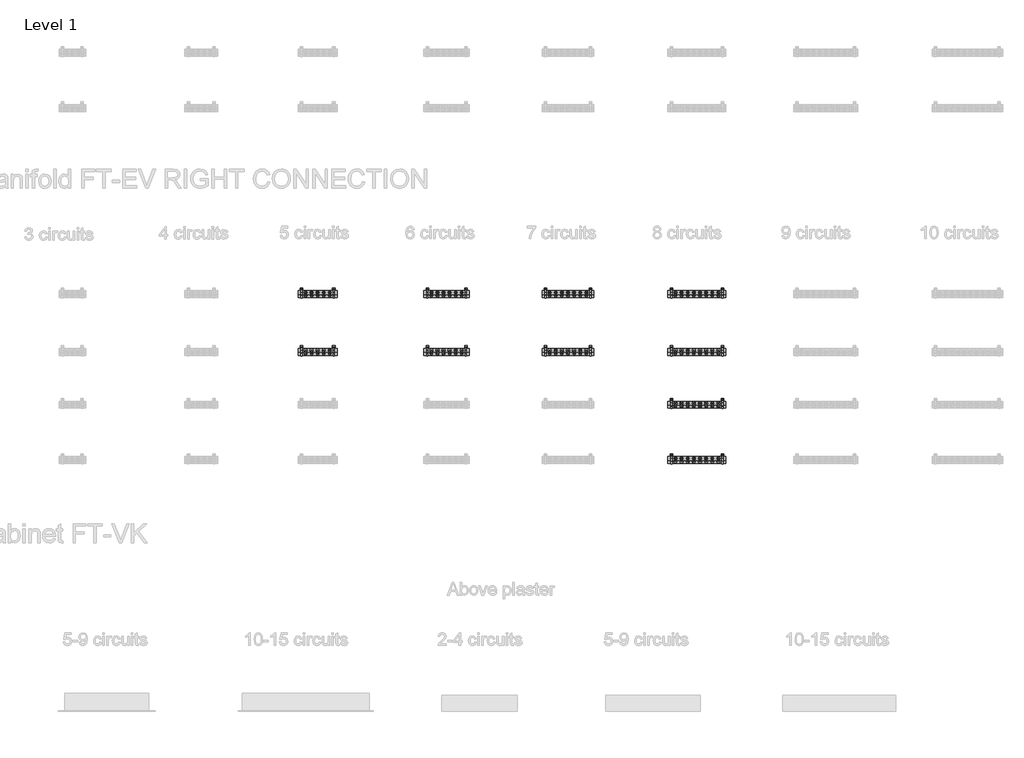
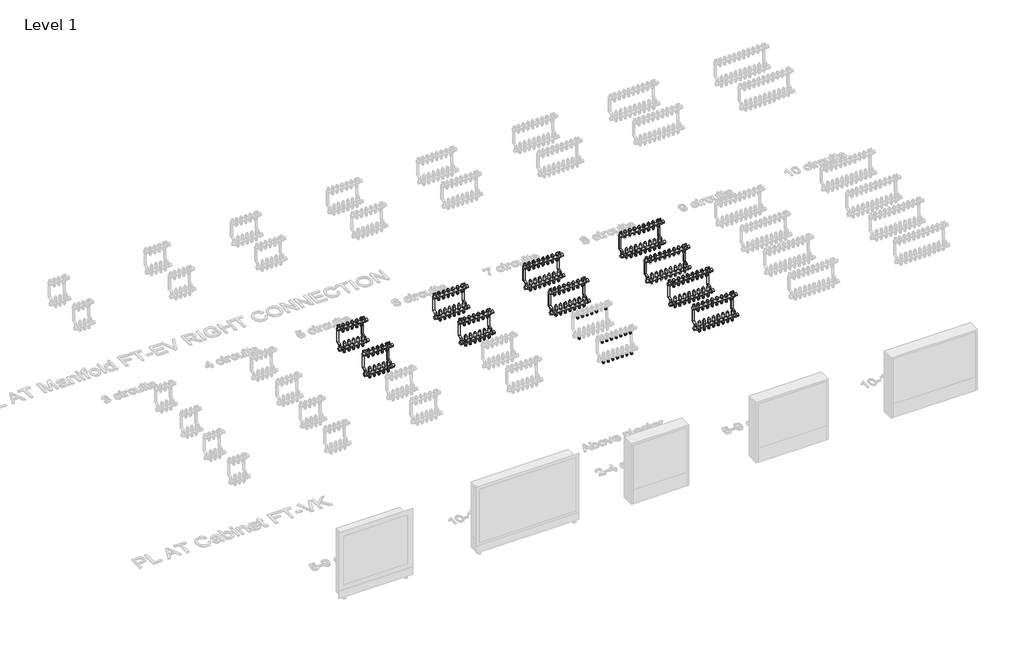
# One storey, part 2 of 23: 136 pipe fittings, 10 valves.
"""IFC4 building model written with IfcOpenShell, lengths in millimetres."""

from ifc_helpers import new_model, si_unit, origin, place, context, project, spatial, transform, mapped, element, save
from components import pipe_fitting_03c6499f, valve_0794a25a, valve_64aa8ca1, valve_0c7f9d95, valve_02e7046f, valve_ee085975, valve_4b47ae93, valve_fde5d0af, valve_4e4a3ad7, valve_daf88f27

model = new_model("IFC4")

# Units and contexts
model_context = context("Model", 3, world=origin())
ifc_project = project(units=[si_unit("LENGTHUNIT", "METRE", prefix="MILLI")], contexts=[model_context])

# Site, building, storey
site = spatial("IfcSite", under=ifc_project)
building = spatial("IfcBuilding", under=site)
storey = spatial("IfcBuildingStorey", under=building, Name="Level 1", Elevation=0.0)

# Pipe fittings
placement = place(None, origin())
pipe_fitting_shape = pipe_fitting_03c6499f(model_context)
element("IfcPipeFitting", 1, ObjectType="Euroconus screwing for multilayer pipes - Manifold FT : Euroconus screwing for multilayer pipes - Manifold FT", at=placement, inside=storey, context=model_context, shape_type="MappedRepresentation", body=[
    mapped(pipe_fitting_shape, transform((4436.9796862, -1164.6959314, 62.88733), x_axis=(0.0, 0.0, -1.0), y_axis=(0.0, 1.0000000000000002, 0.0), z_axis=(1.0000000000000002, 0.0, 0.0))),
])
element("IfcPipeFitting", 2, ObjectType="Euroconus screwing for multilayer pipes - Manifold FT : Euroconus screwing for multilayer pipes - Manifold FT", at=placement, inside=storey, context=model_context, shape_type="MappedRepresentation", body=[
    mapped(pipe_fitting_shape, transform((4388.9796862, -1164.6959314, 62.88733), x_axis=(0.0, 0.0, -1.0), y_axis=(0.0, 1.0000000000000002, 0.0), z_axis=(1.0000000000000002, 0.0, 0.0))),
])
element("IfcPipeFitting", 3, ObjectType="Euroconus screwing for multilayer pipes - Manifold FT : Euroconus screwing for multilayer pipes - Manifold FT", at=placement, inside=storey, context=model_context, shape_type="MappedRepresentation", body=[
    mapped(pipe_fitting_shape, transform((4340.9796862, -1164.6959314, 62.88733), x_axis=(0.0, 0.0, -1.0), y_axis=(0.0, 1.0000000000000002, 0.0), z_axis=(1.0000000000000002, 0.0, 0.0))),
])
element("IfcPipeFitting", 4, ObjectType="Euroconus screwing for multilayer pipes - Manifold FT : Euroconus screwing for multilayer pipes - Manifold FT", at=placement, inside=storey, context=model_context, shape_type="MappedRepresentation", body=[
    mapped(pipe_fitting_shape, transform((4484.9796862, -1164.6959314, 62.88733), x_axis=(0.0, 0.0, -1.0), y_axis=(0.0, 1.0000000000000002, 0.0), z_axis=(1.0000000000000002, 0.0, 0.0))),
])
element("IfcPipeFitting", 5, ObjectType="Euroconus screwing for multilayer pipes - Manifold FT : Euroconus screwing for multilayer pipes - Manifold FT", at=placement, inside=storey, context=model_context, shape_type="MappedRepresentation", body=[
    mapped(pipe_fitting_shape, transform((4436.9796862, -1139.6959314, 272.88733), x_axis=(0.0, 0.0, -1.0), y_axis=(0.0, 1.0000000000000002, 0.0), z_axis=(1.0000000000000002, 0.0, 0.0))),
])
element("IfcPipeFitting", 6, ObjectType="Euroconus screwing for multilayer pipes - Manifold FT : Euroconus screwing for multilayer pipes - Manifold FT", at=placement, inside=storey, context=model_context, shape_type="MappedRepresentation", body=[
    mapped(pipe_fitting_shape, transform((4388.9796862, -1139.6959314, 272.88733), x_axis=(0.0, 0.0, -1.0), y_axis=(0.0, 1.0000000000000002, 0.0), z_axis=(1.0000000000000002, 0.0, 0.0))),
])
element("IfcPipeFitting", 7, ObjectType="Euroconus screwing for multilayer pipes - Manifold FT : Euroconus screwing for multilayer pipes - Manifold FT", at=placement, inside=storey, context=model_context, shape_type="MappedRepresentation", body=[
    mapped(pipe_fitting_shape, transform((4340.9796862, -1139.6959314, 272.88733), x_axis=(0.0, 0.0, -1.0), y_axis=(0.0, 1.0000000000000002, 0.0), z_axis=(1.0000000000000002, 0.0, 0.0))),
])
element("IfcPipeFitting", 8, ObjectType="Euroconus screwing for multilayer pipes - Manifold FT : Euroconus screwing for multilayer pipes - Manifold FT", at=placement, inside=storey, context=model_context, shape_type="MappedRepresentation", body=[
    mapped(pipe_fitting_shape, transform((4484.9796862, -1139.6959314, 272.88733), x_axis=(0.0, 0.0, -1.0), y_axis=(0.0, 1.0000000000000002, 0.0), z_axis=(1.0000000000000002, 0.0, 0.0))),
])
element("IfcPipeFitting", 9, ObjectType="Euroconus screwing for multilayer pipes - Manifold FT : Euroconus screwing for multilayer pipes - Manifold FT", at=placement, inside=storey, context=model_context, shape_type="MappedRepresentation", body=[
    mapped(pipe_fitting_shape, transform((4292.9796862, -1164.6959314, 62.88733), x_axis=(0.0, 0.0, -1.0), y_axis=(0.0, 1.0000000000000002, 0.0), z_axis=(1.0000000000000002, 0.0, 0.0))),
])
element("IfcPipeFitting", 10, ObjectType="Euroconus screwing for multilayer pipes - Manifold FT : Euroconus screwing for multilayer pipes - Manifold FT", at=placement, inside=storey, context=model_context, shape_type="MappedRepresentation", body=[
    mapped(pipe_fitting_shape, transform((4292.9796862, -1139.6959314, 272.88733), x_axis=(0.0, 0.0, -1.0), y_axis=(0.0, 1.0000000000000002, 0.0), z_axis=(1.0000000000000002, 0.0, 0.0))),
])
element("IfcPipeFitting", 11, ObjectType="Euroconus screwing for multilayer pipes - Manifold FT : Euroconus screwing for multilayer pipes - Manifold FT", at=placement, inside=storey, context=model_context, shape_type="MappedRepresentation", body=[
    mapped(pipe_fitting_shape, transform((5486.5796862, -1164.6959314, 62.88733), x_axis=(0.0, 0.0, -1.0), y_axis=(0.0, 1.0000000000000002, 0.0), z_axis=(1.0000000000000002, 0.0, 0.0))),
])
element("IfcPipeFitting", 12, ObjectType="Euroconus screwing for multilayer pipes - Manifold FT : Euroconus screwing for multilayer pipes - Manifold FT", at=placement, inside=storey, context=model_context, shape_type="MappedRepresentation", body=[
    mapped(pipe_fitting_shape, transform((5438.1796862, -1164.6959314, 62.88733), x_axis=(0.0, 0.0, -1.0), y_axis=(0.0, 1.0000000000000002, 0.0), z_axis=(1.0000000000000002, 0.0, 0.0))),
])
element("IfcPipeFitting", 13, ObjectType="Euroconus screwing for multilayer pipes - Manifold FT : Euroconus screwing for multilayer pipes - Manifold FT", at=placement, inside=storey, context=model_context, shape_type="MappedRepresentation", body=[
    mapped(pipe_fitting_shape, transform((5389.7796862, -1164.6959314, 62.88733), x_axis=(0.0, 0.0, -1.0), y_axis=(0.0, 1.0000000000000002, 0.0), z_axis=(1.0000000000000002, 0.0, 0.0))),
])
element("IfcPipeFitting", 14, ObjectType="Euroconus screwing for multilayer pipes - Manifold FT : Euroconus screwing for multilayer pipes - Manifold FT", at=placement, inside=storey, context=model_context, shape_type="MappedRepresentation", body=[
    mapped(pipe_fitting_shape, transform((5341.3796862, -1164.6959314, 62.88733), x_axis=(0.0, 0.0, -1.0), y_axis=(0.0, 1.0000000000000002, 0.0), z_axis=(1.0000000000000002, 0.0, 0.0))),
])
element("IfcPipeFitting", 15, ObjectType="Euroconus screwing for multilayer pipes - Manifold FT : Euroconus screwing for multilayer pipes - Manifold FT", at=placement, inside=storey, context=model_context, shape_type="MappedRepresentation", body=[
    mapped(pipe_fitting_shape, transform((5534.9796862, -1164.6959314, 62.88733), x_axis=(0.0, 0.0, -1.0), y_axis=(0.0, 1.0000000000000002, 0.0), z_axis=(1.0000000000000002, 0.0, 0.0))),
])
element("IfcPipeFitting", 16, ObjectType="Euroconus screwing for multilayer pipes - Manifold FT : Euroconus screwing for multilayer pipes - Manifold FT", at=placement, inside=storey, context=model_context, shape_type="MappedRepresentation", body=[
    mapped(pipe_fitting_shape, transform((5486.5796862, -1139.6959314, 272.88733), x_axis=(0.0, 0.0, -1.0), y_axis=(0.0, 1.0000000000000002, 0.0), z_axis=(1.0000000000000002, 0.0, 0.0))),
])
element("IfcPipeFitting", 17, ObjectType="Euroconus screwing for multilayer pipes - Manifold FT : Euroconus screwing for multilayer pipes - Manifold FT", at=placement, inside=storey, context=model_context, shape_type="MappedRepresentation", body=[
    mapped(pipe_fitting_shape, transform((5438.1796862, -1139.6959314, 272.88733), x_axis=(0.0, 0.0, -1.0), y_axis=(0.0, 1.0000000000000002, 0.0), z_axis=(1.0000000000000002, 0.0, 0.0))),
])
element("IfcPipeFitting", 18, ObjectType="Euroconus screwing for multilayer pipes - Manifold FT : Euroconus screwing for multilayer pipes - Manifold FT", at=placement, inside=storey, context=model_context, shape_type="MappedRepresentation", body=[
    mapped(pipe_fitting_shape, transform((5389.7796862, -1139.6959314, 272.88733), x_axis=(0.0, 0.0, -1.0), y_axis=(0.0, 1.0000000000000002, 0.0), z_axis=(1.0000000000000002, 0.0, 0.0))),
])
element("IfcPipeFitting", 19, ObjectType="Euroconus screwing for multilayer pipes - Manifold FT : Euroconus screwing for multilayer pipes - Manifold FT", at=placement, inside=storey, context=model_context, shape_type="MappedRepresentation", body=[
    mapped(pipe_fitting_shape, transform((5341.3796862, -1139.6959314, 272.88733), x_axis=(0.0, 0.0, -1.0), y_axis=(0.0, 1.0000000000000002, 0.0), z_axis=(1.0000000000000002, 0.0, 0.0))),
])
element("IfcPipeFitting", 20, ObjectType="Euroconus screwing for multilayer pipes - Manifold FT : Euroconus screwing for multilayer pipes - Manifold FT", at=placement, inside=storey, context=model_context, shape_type="MappedRepresentation", body=[
    mapped(pipe_fitting_shape, transform((5534.9796862, -1139.6959314, 272.88733), x_axis=(0.0, 0.0, -1.0), y_axis=(0.0, 1.0000000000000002, 0.0), z_axis=(1.0000000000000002, 0.0, 0.0))),
])
element("IfcPipeFitting", 21, ObjectType="Euroconus screwing for multilayer pipes - Manifold FT : Euroconus screwing for multilayer pipes - Manifold FT", at=placement, inside=storey, context=model_context, shape_type="MappedRepresentation", body=[
    mapped(pipe_fitting_shape, transform((5292.9796862, -1164.6959314, 62.88733), x_axis=(0.0, 0.0, -1.0), y_axis=(0.0, 1.0000000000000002, 0.0), z_axis=(1.0000000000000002, 0.0, 0.0))),
])
element("IfcPipeFitting", 22, ObjectType="Euroconus screwing for multilayer pipes - Manifold FT : Euroconus screwing for multilayer pipes - Manifold FT", at=placement, inside=storey, context=model_context, shape_type="MappedRepresentation", body=[
    mapped(pipe_fitting_shape, transform((5292.9796862, -1139.6959314, 272.88733), x_axis=(0.0, 0.0, -1.0), y_axis=(0.0, 1.0000000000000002, 0.0), z_axis=(1.0000000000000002, 0.0, 0.0))),
])
element("IfcPipeFitting", 23, ObjectType="Euroconus screwing for multilayer pipes - Manifold FT : Euroconus screwing for multilayer pipes - Manifold FT", at=placement, inside=storey, context=model_context, shape_type="MappedRepresentation", body=[
    mapped(pipe_fitting_shape, transform((6476.3130195, -1164.6959314, 62.88733), x_axis=(0.0, 0.0, -1.0), y_axis=(0.0, 1.0000000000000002, 0.0), z_axis=(1.0000000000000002, 0.0, 0.0))),
])
element("IfcPipeFitting", 24, ObjectType="Euroconus screwing for multilayer pipes - Manifold FT : Euroconus screwing for multilayer pipes - Manifold FT", at=placement, inside=storey, context=model_context, shape_type="MappedRepresentation", body=[
    mapped(pipe_fitting_shape, transform((6427.6463528, -1164.6959314, 62.88733), x_axis=(0.0, 0.0, -1.0), y_axis=(0.0, 1.0000000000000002, 0.0), z_axis=(1.0000000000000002, 0.0, 0.0))),
])
element("IfcPipeFitting", 25, ObjectType="Euroconus screwing for multilayer pipes - Manifold FT : Euroconus screwing for multilayer pipes - Manifold FT", at=placement, inside=storey, context=model_context, shape_type="MappedRepresentation", body=[
    mapped(pipe_fitting_shape, transform((6378.9796862, -1164.6959314, 62.88733), x_axis=(0.0, 0.0, -1.0), y_axis=(0.0, 1.0000000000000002, 0.0), z_axis=(1.0000000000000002, 0.0, 0.0))),
])
element("IfcPipeFitting", 26, ObjectType="Euroconus screwing for multilayer pipes - Manifold FT : Euroconus screwing for multilayer pipes - Manifold FT", at=placement, inside=storey, context=model_context, shape_type="MappedRepresentation", body=[
    mapped(pipe_fitting_shape, transform((6330.3130195, -1164.6959314, 62.88733), x_axis=(0.0, 0.0, -1.0), y_axis=(0.0, 1.0000000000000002, 0.0), z_axis=(1.0000000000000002, 0.0, 0.0))),
])
element("IfcPipeFitting", 27, ObjectType="Euroconus screwing for multilayer pipes - Manifold FT : Euroconus screwing for multilayer pipes - Manifold FT", at=placement, inside=storey, context=model_context, shape_type="MappedRepresentation", body=[
    mapped(pipe_fitting_shape, transform((6281.6463528, -1164.6959314, 62.88733), x_axis=(0.0, 0.0, -1.0), y_axis=(0.0, 1.0000000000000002, 0.0), z_axis=(1.0000000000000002, 0.0, 0.0))),
])
element("IfcPipeFitting", 28, ObjectType="Euroconus screwing for multilayer pipes - Manifold FT : Euroconus screwing for multilayer pipes - Manifold FT", at=placement, inside=storey, context=model_context, shape_type="MappedRepresentation", body=[
    mapped(pipe_fitting_shape, transform((6524.9796862, -1164.6959314, 62.88733), x_axis=(0.0, 0.0, -1.0), y_axis=(0.0, 1.0000000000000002, 0.0), z_axis=(1.0000000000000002, 0.0, 0.0))),
])
element("IfcPipeFitting", 29, ObjectType="Euroconus screwing for multilayer pipes - Manifold FT : Euroconus screwing for multilayer pipes - Manifold FT", at=placement, inside=storey, context=model_context, shape_type="MappedRepresentation", body=[
    mapped(pipe_fitting_shape, transform((6476.3130195, -1139.6959314, 272.88733), x_axis=(0.0, 0.0, -1.0), y_axis=(0.0, 1.0000000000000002, 0.0), z_axis=(1.0000000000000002, 0.0, 0.0))),
])
element("IfcPipeFitting", 30, ObjectType="Euroconus screwing for multilayer pipes - Manifold FT : Euroconus screwing for multilayer pipes - Manifold FT", at=placement, inside=storey, context=model_context, shape_type="MappedRepresentation", body=[
    mapped(pipe_fitting_shape, transform((6427.6463528, -1139.6959314, 272.88733), x_axis=(0.0, 0.0, -1.0), y_axis=(0.0, 1.0000000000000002, 0.0), z_axis=(1.0000000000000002, 0.0, 0.0))),
])
element("IfcPipeFitting", 31, ObjectType="Euroconus screwing for multilayer pipes - Manifold FT : Euroconus screwing for multilayer pipes - Manifold FT", at=placement, inside=storey, context=model_context, shape_type="MappedRepresentation", body=[
    mapped(pipe_fitting_shape, transform((6378.9796862, -1139.6959314, 272.88733), x_axis=(0.0, 0.0, -1.0), y_axis=(0.0, 1.0000000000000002, 0.0), z_axis=(1.0000000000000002, 0.0, 0.0))),
])
element("IfcPipeFitting", 32, ObjectType="Euroconus screwing for multilayer pipes - Manifold FT : Euroconus screwing for multilayer pipes - Manifold FT", at=placement, inside=storey, context=model_context, shape_type="MappedRepresentation", body=[
    mapped(pipe_fitting_shape, transform((6330.3130195, -1139.6959314, 272.88733), x_axis=(0.0, 0.0, -1.0), y_axis=(0.0, 1.0000000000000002, 0.0), z_axis=(1.0000000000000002, 0.0, 0.0))),
])
element("IfcPipeFitting", 33, ObjectType="Euroconus screwing for multilayer pipes - Manifold FT : Euroconus screwing for multilayer pipes - Manifold FT", at=placement, inside=storey, context=model_context, shape_type="MappedRepresentation", body=[
    mapped(pipe_fitting_shape, transform((6281.6463528, -1139.6959314, 272.88733), x_axis=(0.0, 0.0, -1.0), y_axis=(0.0, 1.0000000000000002, 0.0), z_axis=(1.0000000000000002, 0.0, 0.0))),
])
element("IfcPipeFitting", 34, ObjectType="Euroconus screwing for multilayer pipes - Manifold FT : Euroconus screwing for multilayer pipes - Manifold FT", at=placement, inside=storey, context=model_context, shape_type="MappedRepresentation", body=[
    mapped(pipe_fitting_shape, transform((6524.9796862, -1139.6959314, 272.88733), x_axis=(0.0, 0.0, -1.0), y_axis=(0.0, 1.0000000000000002, 0.0), z_axis=(1.0000000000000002, 0.0, 0.0))),
])
element("IfcPipeFitting", 35, ObjectType="Euroconus screwing for multilayer pipes - Manifold FT : Euroconus screwing for multilayer pipes - Manifold FT", at=placement, inside=storey, context=model_context, shape_type="MappedRepresentation", body=[
    mapped(pipe_fitting_shape, transform((6232.9796862, -1164.6959314, 62.88733), x_axis=(0.0, 0.0, -1.0), y_axis=(0.0, 1.0000000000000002, 0.0), z_axis=(1.0000000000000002, 0.0, 0.0))),
])
element("IfcPipeFitting", 36, ObjectType="Euroconus screwing for multilayer pipes - Manifold FT : Euroconus screwing for multilayer pipes - Manifold FT", at=placement, inside=storey, context=model_context, shape_type="MappedRepresentation", body=[
    mapped(pipe_fitting_shape, transform((6232.9796862, -1139.6959314, 272.88733), x_axis=(0.0, 0.0, -1.0), y_axis=(0.0, 1.0000000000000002, 0.0), z_axis=(1.0000000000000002, 0.0, 0.0))),
])
element("IfcPipeFitting", 37, ObjectType="Euroconus screwing for multilayer pipes - Manifold FT : Euroconus screwing for multilayer pipes - Manifold FT", at=placement, inside=storey, context=model_context, shape_type="MappedRepresentation", body=[
    mapped(pipe_fitting_shape, transform((7526.1225433, -1164.6959314, 62.88733), x_axis=(0.0, 0.0, -1.0), y_axis=(0.0, 1.0000000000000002, 0.0), z_axis=(1.0000000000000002, 0.0, 0.0))),
])
element("IfcPipeFitting", 38, ObjectType="Euroconus screwing for multilayer pipes - Manifold FT : Euroconus screwing for multilayer pipes - Manifold FT", at=placement, inside=storey, context=model_context, shape_type="MappedRepresentation", body=[
    mapped(pipe_fitting_shape, transform((7477.2654004, -1164.6959314, 62.88733), x_axis=(0.0, 0.0, -1.0), y_axis=(0.0, 1.0000000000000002, 0.0), z_axis=(1.0000000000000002, 0.0, 0.0))),
])
element("IfcPipeFitting", 39, ObjectType="Euroconus screwing for multilayer pipes - Manifold FT : Euroconus screwing for multilayer pipes - Manifold FT", at=placement, inside=storey, context=model_context, shape_type="MappedRepresentation", body=[
    mapped(pipe_fitting_shape, transform((7428.4082576, -1164.6959314, 62.88733), x_axis=(0.0, 0.0, -1.0), y_axis=(0.0, 1.0000000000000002, 0.0), z_axis=(1.0000000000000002, 0.0, 0.0))),
])
element("IfcPipeFitting", 40, ObjectType="Euroconus screwing for multilayer pipes - Manifold FT : Euroconus screwing for multilayer pipes - Manifold FT", at=placement, inside=storey, context=model_context, shape_type="MappedRepresentation", body=[
    mapped(pipe_fitting_shape, transform((7379.5511147, -1164.6959314, 62.88733), x_axis=(0.0, 0.0, -1.0), y_axis=(0.0, 1.0000000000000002, 0.0), z_axis=(1.0000000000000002, 0.0, 0.0))),
])
element("IfcPipeFitting", 41, ObjectType="Euroconus screwing for multilayer pipes - Manifold FT : Euroconus screwing for multilayer pipes - Manifold FT", at=placement, inside=storey, context=model_context, shape_type="MappedRepresentation", body=[
    mapped(pipe_fitting_shape, transform((7330.6939719, -1164.6959314, 62.88733), x_axis=(0.0, 0.0, -1.0), y_axis=(0.0, 1.0000000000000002, 0.0), z_axis=(1.0000000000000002, 0.0, 0.0))),
])
element("IfcPipeFitting", 42, ObjectType="Euroconus screwing for multilayer pipes - Manifold FT : Euroconus screwing for multilayer pipes - Manifold FT", at=placement, inside=storey, context=model_context, shape_type="MappedRepresentation", body=[
    mapped(pipe_fitting_shape, transform((7281.836829, -1164.6959314, 62.88733), x_axis=(0.0, 0.0, -1.0), y_axis=(0.0, 1.0000000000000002, 0.0), z_axis=(1.0000000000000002, 0.0, 0.0))),
])
element("IfcPipeFitting", 43, ObjectType="Euroconus screwing for multilayer pipes - Manifold FT : Euroconus screwing for multilayer pipes - Manifold FT", at=placement, inside=storey, context=model_context, shape_type="MappedRepresentation", body=[
    mapped(pipe_fitting_shape, transform((7574.9796862, -1164.6959314, 62.88733), x_axis=(0.0, 0.0, -1.0), y_axis=(0.0, 1.0000000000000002, 0.0), z_axis=(1.0000000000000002, 0.0, 0.0))),
])
element("IfcPipeFitting", 44, ObjectType="Euroconus screwing for multilayer pipes - Manifold FT : Euroconus screwing for multilayer pipes - Manifold FT", at=placement, inside=storey, context=model_context, shape_type="MappedRepresentation", body=[
    mapped(pipe_fitting_shape, transform((7526.1225433, -1139.6959314, 272.88733), x_axis=(0.0, 0.0, -1.0), y_axis=(0.0, 1.0000000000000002, 0.0), z_axis=(1.0000000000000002, 0.0, 0.0))),
])
element("IfcPipeFitting", 45, ObjectType="Euroconus screwing for multilayer pipes - Manifold FT : Euroconus screwing for multilayer pipes - Manifold FT", at=placement, inside=storey, context=model_context, shape_type="MappedRepresentation", body=[
    mapped(pipe_fitting_shape, transform((7477.2654004, -1139.6959314, 272.88733), x_axis=(0.0, 0.0, -1.0), y_axis=(0.0, 1.0000000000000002, 0.0), z_axis=(1.0000000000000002, 0.0, 0.0))),
])
element("IfcPipeFitting", 46, ObjectType="Euroconus screwing for multilayer pipes - Manifold FT : Euroconus screwing for multilayer pipes - Manifold FT", at=placement, inside=storey, context=model_context, shape_type="MappedRepresentation", body=[
    mapped(pipe_fitting_shape, transform((7428.4082576, -1139.6959314, 272.88733), x_axis=(0.0, 0.0, -1.0), y_axis=(0.0, 1.0000000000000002, 0.0), z_axis=(1.0000000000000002, 0.0, 0.0))),
])
element("IfcPipeFitting", 47, ObjectType="Euroconus screwing for multilayer pipes - Manifold FT : Euroconus screwing for multilayer pipes - Manifold FT", at=placement, inside=storey, context=model_context, shape_type="MappedRepresentation", body=[
    mapped(pipe_fitting_shape, transform((7379.5511147, -1139.6959314, 272.88733), x_axis=(0.0, 0.0, -1.0), y_axis=(0.0, 1.0000000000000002, 0.0), z_axis=(1.0000000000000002, 0.0, 0.0))),
])
element("IfcPipeFitting", 48, ObjectType="Euroconus screwing for multilayer pipes - Manifold FT : Euroconus screwing for multilayer pipes - Manifold FT", at=placement, inside=storey, context=model_context, shape_type="MappedRepresentation", body=[
    mapped(pipe_fitting_shape, transform((4436.9796862, -1624.6959314, 62.88733), x_axis=(0.0, 0.0, -1.0), y_axis=(0.0, 1.0000000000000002, 0.0), z_axis=(1.0000000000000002, 0.0, 0.0))),
])
element("IfcPipeFitting", 49, ObjectType="Euroconus screwing for multilayer pipes - Manifold FT : Euroconus screwing for multilayer pipes - Manifold FT", at=placement, inside=storey, context=model_context, shape_type="MappedRepresentation", body=[
    mapped(pipe_fitting_shape, transform((4388.9796862, -1624.6959314, 62.88733), x_axis=(0.0, 0.0, -1.0), y_axis=(0.0, 1.0000000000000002, 0.0), z_axis=(1.0000000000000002, 0.0, 0.0))),
])
element("IfcPipeFitting", 50, ObjectType="Euroconus screwing for multilayer pipes - Manifold FT : Euroconus screwing for multilayer pipes - Manifold FT", at=placement, inside=storey, context=model_context, shape_type="MappedRepresentation", body=[
    mapped(pipe_fitting_shape, transform((4340.9796862, -1624.6959314, 62.88733), x_axis=(0.0, 0.0, -1.0), y_axis=(0.0, 1.0000000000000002, 0.0), z_axis=(1.0000000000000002, 0.0, 0.0))),
])
element("IfcPipeFitting", 51, ObjectType="Euroconus screwing for multilayer pipes - Manifold FT : Euroconus screwing for multilayer pipes - Manifold FT", at=placement, inside=storey, context=model_context, shape_type="MappedRepresentation", body=[
    mapped(pipe_fitting_shape, transform((4484.9796862, -1624.6959314, 62.88733), x_axis=(0.0, 0.0, -1.0), y_axis=(0.0, 1.0000000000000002, 0.0), z_axis=(1.0000000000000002, 0.0, 0.0))),
])
element("IfcPipeFitting", 52, ObjectType="Euroconus screwing for multilayer pipes - Manifold FT : Euroconus screwing for multilayer pipes - Manifold FT", at=placement, inside=storey, context=model_context, shape_type="MappedRepresentation", body=[
    mapped(pipe_fitting_shape, transform((4436.9796862, -1599.6959314, 272.88733), x_axis=(0.0, 0.0, -1.0), y_axis=(0.0, 1.0000000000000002, 0.0), z_axis=(1.0000000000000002, 0.0, 0.0))),
])
element("IfcPipeFitting", 53, ObjectType="Euroconus screwing for multilayer pipes - Manifold FT : Euroconus screwing for multilayer pipes - Manifold FT", at=placement, inside=storey, context=model_context, shape_type="MappedRepresentation", body=[
    mapped(pipe_fitting_shape, transform((4388.9796862, -1599.6959314, 272.88733), x_axis=(0.0, 0.0, -1.0), y_axis=(0.0, 1.0000000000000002, 0.0), z_axis=(1.0000000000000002, 0.0, 0.0))),
])
element("IfcPipeFitting", 54, ObjectType="Euroconus screwing for multilayer pipes - Manifold FT : Euroconus screwing for multilayer pipes - Manifold FT", at=placement, inside=storey, context=model_context, shape_type="MappedRepresentation", body=[
    mapped(pipe_fitting_shape, transform((4340.9796862, -1599.6959314, 272.88733), x_axis=(0.0, 0.0, -1.0), y_axis=(0.0, 1.0000000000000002, 0.0), z_axis=(1.0000000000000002, 0.0, 0.0))),
])
element("IfcPipeFitting", 55, ObjectType="Euroconus screwing for multilayer pipes - Manifold FT : Euroconus screwing for multilayer pipes - Manifold FT", at=placement, inside=storey, context=model_context, shape_type="MappedRepresentation", body=[
    mapped(pipe_fitting_shape, transform((4484.9796862, -1599.6959314, 272.88733), x_axis=(0.0, 0.0, -1.0), y_axis=(0.0, 1.0000000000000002, 0.0), z_axis=(1.0000000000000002, 0.0, 0.0))),
])
element("IfcPipeFitting", 56, ObjectType="Euroconus screwing for multilayer pipes - Manifold FT : Euroconus screwing for multilayer pipes - Manifold FT", at=placement, inside=storey, context=model_context, shape_type="MappedRepresentation", body=[
    mapped(pipe_fitting_shape, transform((4292.9796862, -1624.6959314, 62.88733), x_axis=(0.0, 0.0, -1.0), y_axis=(0.0, 1.0000000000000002, 0.0), z_axis=(1.0000000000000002, 0.0, 0.0))),
])
element("IfcPipeFitting", 57, ObjectType="Euroconus screwing for multilayer pipes - Manifold FT : Euroconus screwing for multilayer pipes - Manifold FT", at=placement, inside=storey, context=model_context, shape_type="MappedRepresentation", body=[
    mapped(pipe_fitting_shape, transform((4292.9796862, -1599.6959314, 272.88733), x_axis=(0.0, 0.0, -1.0), y_axis=(0.0, 1.0000000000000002, 0.0), z_axis=(1.0000000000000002, 0.0, 0.0))),
])
element("IfcPipeFitting", 58, ObjectType="Euroconus screwing for multilayer pipes - Manifold FT : Euroconus screwing for multilayer pipes - Manifold FT", at=placement, inside=storey, context=model_context, shape_type="MappedRepresentation", body=[
    mapped(pipe_fitting_shape, transform((5486.5796862, -1624.6959314, 62.88733), x_axis=(0.0, 0.0, -1.0), y_axis=(0.0, 1.0000000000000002, 0.0), z_axis=(1.0000000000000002, 0.0, 0.0))),
])
element("IfcPipeFitting", 59, ObjectType="Euroconus screwing for multilayer pipes - Manifold FT : Euroconus screwing for multilayer pipes - Manifold FT", at=placement, inside=storey, context=model_context, shape_type="MappedRepresentation", body=[
    mapped(pipe_fitting_shape, transform((5438.1796862, -1624.6959314, 62.88733), x_axis=(0.0, 0.0, -1.0), y_axis=(0.0, 1.0000000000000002, 0.0), z_axis=(1.0000000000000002, 0.0, 0.0))),
])
element("IfcPipeFitting", 60, ObjectType="Euroconus screwing for multilayer pipes - Manifold FT : Euroconus screwing for multilayer pipes - Manifold FT", at=placement, inside=storey, context=model_context, shape_type="MappedRepresentation", body=[
    mapped(pipe_fitting_shape, transform((5389.7796862, -1624.6959314, 62.88733), x_axis=(0.0, 0.0, -1.0), y_axis=(0.0, 1.0000000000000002, 0.0), z_axis=(1.0000000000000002, 0.0, 0.0))),
])
element("IfcPipeFitting", 61, ObjectType="Euroconus screwing for multilayer pipes - Manifold FT : Euroconus screwing for multilayer pipes - Manifold FT", at=placement, inside=storey, context=model_context, shape_type="MappedRepresentation", body=[
    mapped(pipe_fitting_shape, transform((5341.3796862, -1624.6959314, 62.88733), x_axis=(0.0, 0.0, -1.0), y_axis=(0.0, 1.0000000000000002, 0.0), z_axis=(1.0000000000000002, 0.0, 0.0))),
])
element("IfcPipeFitting", 62, ObjectType="Euroconus screwing for multilayer pipes - Manifold FT : Euroconus screwing for multilayer pipes - Manifold FT", at=placement, inside=storey, context=model_context, shape_type="MappedRepresentation", body=[
    mapped(pipe_fitting_shape, transform((5534.9796862, -1624.6959314, 62.88733), x_axis=(0.0, 0.0, -1.0), y_axis=(0.0, 1.0000000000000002, 0.0), z_axis=(1.0000000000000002, 0.0, 0.0))),
])
element("IfcPipeFitting", 63, ObjectType="Euroconus screwing for multilayer pipes - Manifold FT : Euroconus screwing for multilayer pipes - Manifold FT", at=placement, inside=storey, context=model_context, shape_type="MappedRepresentation", body=[
    mapped(pipe_fitting_shape, transform((5486.5796862, -1599.6959314, 272.88733), x_axis=(0.0, 0.0, -1.0), y_axis=(0.0, 1.0000000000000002, 0.0), z_axis=(1.0000000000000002, 0.0, 0.0))),
])
element("IfcPipeFitting", 64, ObjectType="Euroconus screwing for multilayer pipes - Manifold FT : Euroconus screwing for multilayer pipes - Manifold FT", at=placement, inside=storey, context=model_context, shape_type="MappedRepresentation", body=[
    mapped(pipe_fitting_shape, transform((5438.1796862, -1599.6959314, 272.88733), x_axis=(0.0, 0.0, -1.0), y_axis=(0.0, 1.0000000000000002, 0.0), z_axis=(1.0000000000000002, 0.0, 0.0))),
])
element("IfcPipeFitting", 65, ObjectType="Euroconus screwing for multilayer pipes - Manifold FT : Euroconus screwing for multilayer pipes - Manifold FT", at=placement, inside=storey, context=model_context, shape_type="MappedRepresentation", body=[
    mapped(pipe_fitting_shape, transform((5389.7796862, -1599.6959314, 272.88733), x_axis=(0.0, 0.0, -1.0), y_axis=(0.0, 1.0000000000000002, 0.0), z_axis=(1.0000000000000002, 0.0, 0.0))),
])
element("IfcPipeFitting", 66, ObjectType="Euroconus screwing for multilayer pipes - Manifold FT : Euroconus screwing for multilayer pipes - Manifold FT", at=placement, inside=storey, context=model_context, shape_type="MappedRepresentation", body=[
    mapped(pipe_fitting_shape, transform((5341.3796862, -1599.6959314, 272.88733), x_axis=(0.0, 0.0, -1.0), y_axis=(0.0, 1.0000000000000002, 0.0), z_axis=(1.0000000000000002, 0.0, 0.0))),
])
element("IfcPipeFitting", 67, ObjectType="Euroconus screwing for multilayer pipes - Manifold FT : Euroconus screwing for multilayer pipes - Manifold FT", at=placement, inside=storey, context=model_context, shape_type="MappedRepresentation", body=[
    mapped(pipe_fitting_shape, transform((5534.9796862, -1599.6959314, 272.88733), x_axis=(0.0, 0.0, -1.0), y_axis=(0.0, 1.0000000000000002, 0.0), z_axis=(1.0000000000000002, 0.0, 0.0))),
])
element("IfcPipeFitting", 68, ObjectType="Euroconus screwing for multilayer pipes - Manifold FT : Euroconus screwing for multilayer pipes - Manifold FT", at=placement, inside=storey, context=model_context, shape_type="MappedRepresentation", body=[
    mapped(pipe_fitting_shape, transform((5292.9796862, -1624.6959314, 62.88733), x_axis=(0.0, 0.0, -1.0), y_axis=(0.0, 1.0000000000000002, 0.0), z_axis=(1.0000000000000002, 0.0, 0.0))),
])
element("IfcPipeFitting", 69, ObjectType="Euroconus screwing for multilayer pipes - Manifold FT : Euroconus screwing for multilayer pipes - Manifold FT", at=placement, inside=storey, context=model_context, shape_type="MappedRepresentation", body=[
    mapped(pipe_fitting_shape, transform((5292.9796862, -1599.6959314, 272.88733), x_axis=(0.0, 0.0, -1.0), y_axis=(0.0, 1.0000000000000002, 0.0), z_axis=(1.0000000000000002, 0.0, 0.0))),
])
element("IfcPipeFitting", 70, ObjectType="Euroconus screwing for multilayer pipes - Manifold FT : Euroconus screwing for multilayer pipes - Manifold FT", at=placement, inside=storey, context=model_context, shape_type="MappedRepresentation", body=[
    mapped(pipe_fitting_shape, transform((6476.3130195, -1624.6959314, 62.88733), x_axis=(0.0, 0.0, -1.0), y_axis=(0.0, 1.0000000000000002, 0.0), z_axis=(1.0000000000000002, 0.0, 0.0))),
])
element("IfcPipeFitting", 71, ObjectType="Euroconus screwing for multilayer pipes - Manifold FT : Euroconus screwing for multilayer pipes - Manifold FT", at=placement, inside=storey, context=model_context, shape_type="MappedRepresentation", body=[
    mapped(pipe_fitting_shape, transform((6427.6463528, -1624.6959314, 62.88733), x_axis=(0.0, 0.0, -1.0), y_axis=(0.0, 1.0000000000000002, 0.0), z_axis=(1.0000000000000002, 0.0, 0.0))),
])
element("IfcPipeFitting", 72, ObjectType="Euroconus screwing for multilayer pipes - Manifold FT : Euroconus screwing for multilayer pipes - Manifold FT", at=placement, inside=storey, context=model_context, shape_type="MappedRepresentation", body=[
    mapped(pipe_fitting_shape, transform((6378.9796862, -1624.6959314, 62.88733), x_axis=(0.0, 0.0, -1.0), y_axis=(0.0, 1.0000000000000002, 0.0), z_axis=(1.0000000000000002, 0.0, 0.0))),
])
element("IfcPipeFitting", 73, ObjectType="Euroconus screwing for multilayer pipes - Manifold FT : Euroconus screwing for multilayer pipes - Manifold FT", at=placement, inside=storey, context=model_context, shape_type="MappedRepresentation", body=[
    mapped(pipe_fitting_shape, transform((6330.3130195, -1624.6959314, 62.88733), x_axis=(0.0, 0.0, -1.0), y_axis=(0.0, 1.0000000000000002, 0.0), z_axis=(1.0000000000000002, 0.0, 0.0))),
])
element("IfcPipeFitting", 74, ObjectType="Euroconus screwing for multilayer pipes - Manifold FT : Euroconus screwing for multilayer pipes - Manifold FT", at=placement, inside=storey, context=model_context, shape_type="MappedRepresentation", body=[
    mapped(pipe_fitting_shape, transform((6281.6463528, -1624.6959314, 62.88733), x_axis=(0.0, 0.0, -1.0), y_axis=(0.0, 1.0000000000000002, 0.0), z_axis=(1.0000000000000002, 0.0, 0.0))),
])
element("IfcPipeFitting", 75, ObjectType="Euroconus screwing for multilayer pipes - Manifold FT : Euroconus screwing for multilayer pipes - Manifold FT", at=placement, inside=storey, context=model_context, shape_type="MappedRepresentation", body=[
    mapped(pipe_fitting_shape, transform((6524.9796862, -1624.6959314, 62.88733), x_axis=(0.0, 0.0, -1.0), y_axis=(0.0, 1.0000000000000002, 0.0), z_axis=(1.0000000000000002, 0.0, 0.0))),
])
element("IfcPipeFitting", 76, ObjectType="Euroconus screwing for multilayer pipes - Manifold FT : Euroconus screwing for multilayer pipes - Manifold FT", at=placement, inside=storey, context=model_context, shape_type="MappedRepresentation", body=[
    mapped(pipe_fitting_shape, transform((6476.3130195, -1599.6959314, 272.88733), x_axis=(0.0, 0.0, -1.0), y_axis=(0.0, 1.0000000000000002, 0.0), z_axis=(1.0000000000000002, 0.0, 0.0))),
])
element("IfcPipeFitting", 77, ObjectType="Euroconus screwing for multilayer pipes - Manifold FT : Euroconus screwing for multilayer pipes - Manifold FT", at=placement, inside=storey, context=model_context, shape_type="MappedRepresentation", body=[
    mapped(pipe_fitting_shape, transform((6427.6463528, -1599.6959314, 272.88733), x_axis=(0.0, 0.0, -1.0), y_axis=(0.0, 1.0000000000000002, 0.0), z_axis=(1.0000000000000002, 0.0, 0.0))),
])
element("IfcPipeFitting", 78, ObjectType="Euroconus screwing for multilayer pipes - Manifold FT : Euroconus screwing for multilayer pipes - Manifold FT", at=placement, inside=storey, context=model_context, shape_type="MappedRepresentation", body=[
    mapped(pipe_fitting_shape, transform((6378.9796862, -1599.6959314, 272.88733), x_axis=(0.0, 0.0, -1.0), y_axis=(0.0, 1.0000000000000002, 0.0), z_axis=(1.0000000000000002, 0.0, 0.0))),
])
element("IfcPipeFitting", 79, ObjectType="Euroconus screwing for multilayer pipes - Manifold FT : Euroconus screwing for multilayer pipes - Manifold FT", at=placement, inside=storey, context=model_context, shape_type="MappedRepresentation", body=[
    mapped(pipe_fitting_shape, transform((6330.3130195, -1599.6959314, 272.88733), x_axis=(0.0, 0.0, -1.0), y_axis=(0.0, 1.0000000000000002, 0.0), z_axis=(1.0000000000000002, 0.0, 0.0))),
])
element("IfcPipeFitting", 80, ObjectType="Euroconus screwing for multilayer pipes - Manifold FT : Euroconus screwing for multilayer pipes - Manifold FT", at=placement, inside=storey, context=model_context, shape_type="MappedRepresentation", body=[
    mapped(pipe_fitting_shape, transform((6281.6463528, -1599.6959314, 272.88733), x_axis=(0.0, 0.0, -1.0), y_axis=(0.0, 1.0000000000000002, 0.0), z_axis=(1.0000000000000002, 0.0, 0.0))),
])
element("IfcPipeFitting", 81, ObjectType="Euroconus screwing for multilayer pipes - Manifold FT : Euroconus screwing for multilayer pipes - Manifold FT", at=placement, inside=storey, context=model_context, shape_type="MappedRepresentation", body=[
    mapped(pipe_fitting_shape, transform((6524.9796862, -1599.6959314, 272.88733), x_axis=(0.0, 0.0, -1.0), y_axis=(0.0, 1.0000000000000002, 0.0), z_axis=(1.0000000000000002, 0.0, 0.0))),
])
element("IfcPipeFitting", 82, ObjectType="Euroconus screwing for multilayer pipes - Manifold FT : Euroconus screwing for multilayer pipes - Manifold FT", at=placement, inside=storey, context=model_context, shape_type="MappedRepresentation", body=[
    mapped(pipe_fitting_shape, transform((6232.9796862, -1624.6959314, 62.88733), x_axis=(0.0, 0.0, -1.0), y_axis=(0.0, 1.0000000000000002, 0.0), z_axis=(1.0000000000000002, 0.0, 0.0))),
])
element("IfcPipeFitting", 83, ObjectType="Euroconus screwing for multilayer pipes - Manifold FT : Euroconus screwing for multilayer pipes - Manifold FT", at=placement, inside=storey, context=model_context, shape_type="MappedRepresentation", body=[
    mapped(pipe_fitting_shape, transform((6232.9796862, -1599.6959314, 272.88733), x_axis=(0.0, 0.0, -1.0), y_axis=(0.0, 1.0000000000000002, 0.0), z_axis=(1.0000000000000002, 0.0, 0.0))),
])
element("IfcPipeFitting", 84, ObjectType="Euroconus screwing for multilayer pipes - Manifold FT : Euroconus screwing for multilayer pipes - Manifold FT", at=placement, inside=storey, context=model_context, shape_type="MappedRepresentation", body=[
    mapped(pipe_fitting_shape, transform((6427.6463528, -2019.6959314, 272.88733), x_axis=(0.0, 0.0, -1.0), y_axis=(0.0, 1.0000000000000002, 0.0), z_axis=(1.0000000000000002, 0.0, 0.0))),
])
element("IfcPipeFitting", 85, ObjectType="Euroconus screwing for multilayer pipes - Manifold FT : Euroconus screwing for multilayer pipes - Manifold FT", at=placement, inside=storey, context=model_context, shape_type="MappedRepresentation", body=[
    mapped(pipe_fitting_shape, transform((6378.9796862, -2019.6959314, 272.88733), x_axis=(0.0, 0.0, -1.0), y_axis=(0.0, 1.0000000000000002, 0.0), z_axis=(1.0000000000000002, 0.0, 0.0))),
])
element("IfcPipeFitting", 86, ObjectType="Euroconus screwing for multilayer pipes - Manifold FT : Euroconus screwing for multilayer pipes - Manifold FT", at=placement, inside=storey, context=model_context, shape_type="MappedRepresentation", body=[
    mapped(pipe_fitting_shape, transform((6330.3130195, -2019.6959314, 272.88733), x_axis=(0.0, 0.0, -1.0), y_axis=(0.0, 1.0000000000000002, 0.0), z_axis=(1.0000000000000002, 0.0, 0.0))),
])
element("IfcPipeFitting", 87, ObjectType="Euroconus screwing for multilayer pipes - Manifold FT : Euroconus screwing for multilayer pipes - Manifold FT", at=placement, inside=storey, context=model_context, shape_type="MappedRepresentation", body=[
    mapped(pipe_fitting_shape, transform((6281.6463528, -2019.6959314, 272.88733), x_axis=(0.0, 0.0, -1.0), y_axis=(0.0, 1.0000000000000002, 0.0), z_axis=(1.0000000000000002, 0.0, 0.0))),
])
element("IfcPipeFitting", 88, ObjectType="Euroconus screwing for multilayer pipes - Manifold FT : Euroconus screwing for multilayer pipes - Manifold FT", at=placement, inside=storey, context=model_context, shape_type="MappedRepresentation", body=[
    mapped(pipe_fitting_shape, transform((6524.9796862, -2019.6959314, 272.88733), x_axis=(0.0, 0.0, -1.0), y_axis=(0.0, 1.0000000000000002, 0.0), z_axis=(1.0000000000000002, 0.0, 0.0))),
])
element("IfcPipeFitting", 89, ObjectType="Euroconus screwing for multilayer pipes - Manifold FT : Euroconus screwing for multilayer pipes - Manifold FT", at=placement, inside=storey, context=model_context, shape_type="MappedRepresentation", body=[
    mapped(pipe_fitting_shape, transform((6232.9796862, -2044.6959314, 62.88733), x_axis=(0.0, 0.0, -1.0), y_axis=(0.0, 1.0000000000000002, 0.0), z_axis=(1.0000000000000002, 0.0, 0.0))),
])
element("IfcPipeFitting", 90, ObjectType="Euroconus screwing for multilayer pipes - Manifold FT : Euroconus screwing for multilayer pipes - Manifold FT", at=placement, inside=storey, context=model_context, shape_type="MappedRepresentation", body=[
    mapped(pipe_fitting_shape, transform((6232.9796862, -2019.6959314, 272.88733), x_axis=(0.0, 0.0, -1.0), y_axis=(0.0, 1.0000000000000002, 0.0), z_axis=(1.0000000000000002, 0.0, 0.0))),
])
element("IfcPipeFitting", 91, ObjectType="Euroconus screwing for multilayer pipes - Manifold FT : Euroconus screwing for multilayer pipes - Manifold FT", at=placement, inside=storey, context=model_context, shape_type="MappedRepresentation", body=[
    mapped(pipe_fitting_shape, transform((7526.1225433, -2044.6959314, 62.88733), x_axis=(0.0, 0.0, -1.0), y_axis=(0.0, 1.0000000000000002, 0.0), z_axis=(1.0000000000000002, 0.0, 0.0))),
])
element("IfcPipeFitting", 92, ObjectType="Euroconus screwing for multilayer pipes - Manifold FT : Euroconus screwing for multilayer pipes - Manifold FT", at=placement, inside=storey, context=model_context, shape_type="MappedRepresentation", body=[
    mapped(pipe_fitting_shape, transform((7477.2654004, -2044.6959314, 62.88733), x_axis=(0.0, 0.0, -1.0), y_axis=(0.0, 1.0000000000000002, 0.0), z_axis=(1.0000000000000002, 0.0, 0.0))),
])
element("IfcPipeFitting", 93, ObjectType="Euroconus screwing for multilayer pipes - Manifold FT : Euroconus screwing for multilayer pipes - Manifold FT", at=placement, inside=storey, context=model_context, shape_type="MappedRepresentation", body=[
    mapped(pipe_fitting_shape, transform((7428.4082576, -2044.6959314, 62.88733), x_axis=(0.0, 0.0, -1.0), y_axis=(0.0, 1.0000000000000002, 0.0), z_axis=(1.0000000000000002, 0.0, 0.0))),
])
element("IfcPipeFitting", 94, ObjectType="Euroconus screwing for multilayer pipes - Manifold FT : Euroconus screwing for multilayer pipes - Manifold FT", at=placement, inside=storey, context=model_context, shape_type="MappedRepresentation", body=[
    mapped(pipe_fitting_shape, transform((7379.5511147, -2044.6959314, 62.88733), x_axis=(0.0, 0.0, -1.0), y_axis=(0.0, 1.0000000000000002, 0.0), z_axis=(1.0000000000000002, 0.0, 0.0))),
])
element("IfcPipeFitting", 95, ObjectType="Euroconus screwing for multilayer pipes - Manifold FT : Euroconus screwing for multilayer pipes - Manifold FT", at=placement, inside=storey, context=model_context, shape_type="MappedRepresentation", body=[
    mapped(pipe_fitting_shape, transform((7330.6939719, -2044.6959314, 62.88733), x_axis=(0.0, 0.0, -1.0), y_axis=(0.0, 1.0000000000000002, 0.0), z_axis=(1.0000000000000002, 0.0, 0.0))),
])
element("IfcPipeFitting", 96, ObjectType="Euroconus screwing for multilayer pipes - Manifold FT : Euroconus screwing for multilayer pipes - Manifold FT", at=placement, inside=storey, context=model_context, shape_type="MappedRepresentation", body=[
    mapped(pipe_fitting_shape, transform((7281.836829, -2044.6959314, 62.88733), x_axis=(0.0, 0.0, -1.0), y_axis=(0.0, 1.0000000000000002, 0.0), z_axis=(1.0000000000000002, 0.0, 0.0))),
])
element("IfcPipeFitting", 97, ObjectType="Euroconus screwing for multilayer pipes - Manifold FT : Euroconus screwing for multilayer pipes - Manifold FT", at=placement, inside=storey, context=model_context, shape_type="MappedRepresentation", body=[
    mapped(pipe_fitting_shape, transform((7574.9796862, -2044.6959314, 62.88733), x_axis=(0.0, 0.0, -1.0), y_axis=(0.0, 1.0000000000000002, 0.0), z_axis=(1.0000000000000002, 0.0, 0.0))),
])
element("IfcPipeFitting", 98, ObjectType="Euroconus screwing for multilayer pipes - Manifold FT : Euroconus screwing for multilayer pipes - Manifold FT", at=placement, inside=storey, context=model_context, shape_type="MappedRepresentation", body=[
    mapped(pipe_fitting_shape, transform((7526.1225433, -2019.6959314, 272.88733), x_axis=(0.0, 0.0, -1.0), y_axis=(0.0, 1.0000000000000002, 0.0), z_axis=(1.0000000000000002, 0.0, 0.0))),
])
element("IfcPipeFitting", 99, ObjectType="Euroconus screwing for multilayer pipes - Manifold FT : Euroconus screwing for multilayer pipes - Manifold FT", at=placement, inside=storey, context=model_context, shape_type="MappedRepresentation", body=[
    mapped(pipe_fitting_shape, transform((7477.2654004, -2019.6959314, 272.88733), x_axis=(0.0, 0.0, -1.0), y_axis=(0.0, 1.0000000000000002, 0.0), z_axis=(1.0000000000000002, 0.0, 0.0))),
])
element("IfcPipeFitting", 100, ObjectType="Euroconus screwing for multilayer pipes - Manifold FT : Euroconus screwing for multilayer pipes - Manifold FT", at=placement, inside=storey, context=model_context, shape_type="MappedRepresentation", body=[
    mapped(pipe_fitting_shape, transform((7428.4082576, -2019.6959314, 272.88733), x_axis=(0.0, 0.0, -1.0), y_axis=(0.0, 1.0000000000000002, 0.0), z_axis=(1.0000000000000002, 0.0, 0.0))),
])
element("IfcPipeFitting", 101, ObjectType="Euroconus screwing for multilayer pipes - Manifold FT : Euroconus screwing for multilayer pipes - Manifold FT", at=placement, inside=storey, context=model_context, shape_type="MappedRepresentation", body=[
    mapped(pipe_fitting_shape, transform((7379.5511147, -2019.6959314, 272.88733), x_axis=(0.0, 0.0, -1.0), y_axis=(0.0, 1.0000000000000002, 0.0), z_axis=(1.0000000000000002, 0.0, 0.0))),
])
element("IfcPipeFitting", 102, ObjectType="Euroconus screwing for multilayer pipes - Manifold FT : Euroconus screwing for multilayer pipes - Manifold FT", at=placement, inside=storey, context=model_context, shape_type="MappedRepresentation", body=[
    mapped(pipe_fitting_shape, transform((7330.6939719, -2019.6959314, 272.88733), x_axis=(0.0, 0.0, -1.0), y_axis=(0.0, 1.0000000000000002, 0.0), z_axis=(1.0000000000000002, 0.0, 0.0))),
])
element("IfcPipeFitting", 103, ObjectType="Euroconus screwing for multilayer pipes - Manifold FT : Euroconus screwing for multilayer pipes - Manifold FT", at=placement, inside=storey, context=model_context, shape_type="MappedRepresentation", body=[
    mapped(pipe_fitting_shape, transform((7281.836829, -2019.6959314, 272.88733), x_axis=(0.0, 0.0, -1.0), y_axis=(0.0, 1.0000000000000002, 0.0), z_axis=(1.0000000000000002, 0.0, 0.0))),
])
element("IfcPipeFitting", 104, ObjectType="Euroconus screwing for multilayer pipes - Manifold FT : Euroconus screwing for multilayer pipes - Manifold FT", at=placement, inside=storey, context=model_context, shape_type="MappedRepresentation", body=[
    mapped(pipe_fitting_shape, transform((7574.9796862, -2019.6959314, 272.88733), x_axis=(0.0, 0.0, -1.0), y_axis=(0.0, 1.0000000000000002, 0.0), z_axis=(1.0000000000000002, 0.0, 0.0))),
])
element("IfcPipeFitting", 105, ObjectType="Euroconus screwing for multilayer pipes - Manifold FT : Euroconus screwing for multilayer pipes - Manifold FT", at=placement, inside=storey, context=model_context, shape_type="MappedRepresentation", body=[
    mapped(pipe_fitting_shape, transform((7232.9796862, -2044.6959314, 62.88733), x_axis=(0.0, 0.0, -1.0), y_axis=(0.0, 1.0000000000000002, 0.0), z_axis=(1.0000000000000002, 0.0, 0.0))),
])
element("IfcPipeFitting", 106, ObjectType="Euroconus screwing for multilayer pipes - Manifold FT : Euroconus screwing for multilayer pipes - Manifold FT", at=placement, inside=storey, context=model_context, shape_type="MappedRepresentation", body=[
    mapped(pipe_fitting_shape, transform((7232.9796862, -2019.6959314, 272.88733), x_axis=(0.0, 0.0, -1.0), y_axis=(0.0, 1.0000000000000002, 0.0), z_axis=(1.0000000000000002, 0.0, 0.0))),
])
element("IfcPipeFitting", 107, ObjectType="Euroconus screwing for multilayer pipes - Manifold FT : Euroconus screwing for multilayer pipes - Manifold FT", at=placement, inside=storey, context=model_context, shape_type="MappedRepresentation", body=[
    mapped(pipe_fitting_shape, transform((6476.3130195, -2484.6959314, 62.88733), x_axis=(0.0, 0.0, -1.0), y_axis=(0.0, 1.0000000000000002, 0.0), z_axis=(1.0000000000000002, 0.0, 0.0))),
])
element("IfcPipeFitting", 108, ObjectType="Euroconus screwing for multilayer pipes - Manifold FT : Euroconus screwing for multilayer pipes - Manifold FT", at=placement, inside=storey, context=model_context, shape_type="MappedRepresentation", body=[
    mapped(pipe_fitting_shape, transform((6427.6463528, -2484.6959314, 62.88733), x_axis=(0.0, 0.0, -1.0), y_axis=(0.0, 1.0000000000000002, 0.0), z_axis=(1.0000000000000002, 0.0, 0.0))),
])
element("IfcPipeFitting", 109, ObjectType="Euroconus screwing for multilayer pipes - Manifold FT : Euroconus screwing for multilayer pipes - Manifold FT", at=placement, inside=storey, context=model_context, shape_type="MappedRepresentation", body=[
    mapped(pipe_fitting_shape, transform((6378.9796862, -2484.6959314, 62.88733), x_axis=(0.0, 0.0, -1.0), y_axis=(0.0, 1.0000000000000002, 0.0), z_axis=(1.0000000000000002, 0.0, 0.0))),
])
element("IfcPipeFitting", 110, ObjectType="Euroconus screwing for multilayer pipes - Manifold FT : Euroconus screwing for multilayer pipes - Manifold FT", at=placement, inside=storey, context=model_context, shape_type="MappedRepresentation", body=[
    mapped(pipe_fitting_shape, transform((6330.3130195, -2484.6959314, 62.88733), x_axis=(0.0, 0.0, -1.0), y_axis=(0.0, 1.0000000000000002, 0.0), z_axis=(1.0000000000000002, 0.0, 0.0))),
])
element("IfcPipeFitting", 111, ObjectType="Euroconus screwing for multilayer pipes - Manifold FT : Euroconus screwing for multilayer pipes - Manifold FT", at=placement, inside=storey, context=model_context, shape_type="MappedRepresentation", body=[
    mapped(pipe_fitting_shape, transform((6281.6463528, -2484.6959314, 62.88733), x_axis=(0.0, 0.0, -1.0), y_axis=(0.0, 1.0000000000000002, 0.0), z_axis=(1.0000000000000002, 0.0, 0.0))),
])
element("IfcPipeFitting", 112, ObjectType="Euroconus screwing for multilayer pipes - Manifold FT : Euroconus screwing for multilayer pipes - Manifold FT", at=placement, inside=storey, context=model_context, shape_type="MappedRepresentation", body=[
    mapped(pipe_fitting_shape, transform((6524.9796862, -2484.6959314, 62.88733), x_axis=(0.0, 0.0, -1.0), y_axis=(0.0, 1.0000000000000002, 0.0), z_axis=(1.0000000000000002, 0.0, 0.0))),
])
element("IfcPipeFitting", 113, ObjectType="Euroconus screwing for multilayer pipes - Manifold FT : Euroconus screwing for multilayer pipes - Manifold FT", at=placement, inside=storey, context=model_context, shape_type="MappedRepresentation", body=[
    mapped(pipe_fitting_shape, transform((6476.3130195, -2459.6959314, 272.88733), x_axis=(0.0, 0.0, -1.0), y_axis=(0.0, 1.0000000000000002, 0.0), z_axis=(1.0000000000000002, 0.0, 0.0))),
])
element("IfcPipeFitting", 114, ObjectType="Euroconus screwing for multilayer pipes - Manifold FT : Euroconus screwing for multilayer pipes - Manifold FT", at=placement, inside=storey, context=model_context, shape_type="MappedRepresentation", body=[
    mapped(pipe_fitting_shape, transform((6427.6463528, -2459.6959314, 272.88733), x_axis=(0.0, 0.0, -1.0), y_axis=(0.0, 1.0000000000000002, 0.0), z_axis=(1.0000000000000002, 0.0, 0.0))),
])
element("IfcPipeFitting", 115, ObjectType="Euroconus screwing for multilayer pipes - Manifold FT : Euroconus screwing for multilayer pipes - Manifold FT", at=placement, inside=storey, context=model_context, shape_type="MappedRepresentation", body=[
    mapped(pipe_fitting_shape, transform((6378.9796862, -2459.6959314, 272.88733), x_axis=(0.0, 0.0, -1.0), y_axis=(0.0, 1.0000000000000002, 0.0), z_axis=(1.0000000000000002, 0.0, 0.0))),
])
element("IfcPipeFitting", 116, ObjectType="Euroconus screwing for multilayer pipes - Manifold FT : Euroconus screwing for multilayer pipes - Manifold FT", at=placement, inside=storey, context=model_context, shape_type="MappedRepresentation", body=[
    mapped(pipe_fitting_shape, transform((6330.3130195, -2459.6959314, 272.88733), x_axis=(0.0, 0.0, -1.0), y_axis=(0.0, 1.0000000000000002, 0.0), z_axis=(1.0000000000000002, 0.0, 0.0))),
])
element("IfcPipeFitting", 117, ObjectType="Euroconus screwing for multilayer pipes - Manifold FT : Euroconus screwing for multilayer pipes - Manifold FT", at=placement, inside=storey, context=model_context, shape_type="MappedRepresentation", body=[
    mapped(pipe_fitting_shape, transform((6281.6463528, -2459.6959314, 272.88733), x_axis=(0.0, 0.0, -1.0), y_axis=(0.0, 1.0000000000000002, 0.0), z_axis=(1.0000000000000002, 0.0, 0.0))),
])
element("IfcPipeFitting", 118, ObjectType="Euroconus screwing for multilayer pipes - Manifold FT : Euroconus screwing for multilayer pipes - Manifold FT", at=placement, inside=storey, context=model_context, shape_type="MappedRepresentation", body=[
    mapped(pipe_fitting_shape, transform((6524.9796862, -2459.6959314, 272.88733), x_axis=(0.0, 0.0, -1.0), y_axis=(0.0, 1.0000000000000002, 0.0), z_axis=(1.0000000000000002, 0.0, 0.0))),
])
element("IfcPipeFitting", 119, ObjectType="Euroconus screwing for multilayer pipes - Manifold FT : Euroconus screwing for multilayer pipes - Manifold FT", at=placement, inside=storey, context=model_context, shape_type="MappedRepresentation", body=[
    mapped(pipe_fitting_shape, transform((6232.9796862, -2484.6959314, 62.88733), x_axis=(0.0, 0.0, -1.0), y_axis=(0.0, 1.0000000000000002, 0.0), z_axis=(1.0000000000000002, 0.0, 0.0))),
])
element("IfcPipeFitting", 120, ObjectType="Euroconus screwing for multilayer pipes - Manifold FT : Euroconus screwing for multilayer pipes - Manifold FT", at=placement, inside=storey, context=model_context, shape_type="MappedRepresentation", body=[
    mapped(pipe_fitting_shape, transform((6232.9796862, -2459.6959314, 272.88733), x_axis=(0.0, 0.0, -1.0), y_axis=(0.0, 1.0000000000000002, 0.0), z_axis=(1.0000000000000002, 0.0, 0.0))),
])
element("IfcPipeFitting", 121, ObjectType="Euroconus screwing for multilayer pipes - Manifold FT : Euroconus screwing for multilayer pipes - Manifold FT", at=placement, inside=storey, context=model_context, shape_type="MappedRepresentation", body=[
    mapped(pipe_fitting_shape, transform((7526.1225433, -2484.6959314, 62.88733), x_axis=(0.0, 0.0, -1.0), y_axis=(0.0, 1.0000000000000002, 0.0), z_axis=(1.0000000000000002, 0.0, 0.0))),
])
element("IfcPipeFitting", 122, ObjectType="Euroconus screwing for multilayer pipes - Manifold FT : Euroconus screwing for multilayer pipes - Manifold FT", at=placement, inside=storey, context=model_context, shape_type="MappedRepresentation", body=[
    mapped(pipe_fitting_shape, transform((7477.2654004, -2484.6959314, 62.88733), x_axis=(0.0, 0.0, -1.0), y_axis=(0.0, 1.0000000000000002, 0.0), z_axis=(1.0000000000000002, 0.0, 0.0))),
])
element("IfcPipeFitting", 123, ObjectType="Euroconus screwing for multilayer pipes - Manifold FT : Euroconus screwing for multilayer pipes - Manifold FT", at=placement, inside=storey, context=model_context, shape_type="MappedRepresentation", body=[
    mapped(pipe_fitting_shape, transform((7428.4082576, -2484.6959314, 62.88733), x_axis=(0.0, 0.0, -1.0), y_axis=(0.0, 1.0000000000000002, 0.0), z_axis=(1.0000000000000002, 0.0, 0.0))),
])
element("IfcPipeFitting", 124, ObjectType="Euroconus screwing for multilayer pipes - Manifold FT : Euroconus screwing for multilayer pipes - Manifold FT", at=placement, inside=storey, context=model_context, shape_type="MappedRepresentation", body=[
    mapped(pipe_fitting_shape, transform((7379.5511147, -2484.6959314, 62.88733), x_axis=(0.0, 0.0, -1.0), y_axis=(0.0, 1.0000000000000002, 0.0), z_axis=(1.0000000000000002, 0.0, 0.0))),
])
element("IfcPipeFitting", 125, ObjectType="Euroconus screwing for multilayer pipes - Manifold FT : Euroconus screwing for multilayer pipes - Manifold FT", at=placement, inside=storey, context=model_context, shape_type="MappedRepresentation", body=[
    mapped(pipe_fitting_shape, transform((7330.6939719, -2484.6959314, 62.88733), x_axis=(0.0, 0.0, -1.0), y_axis=(0.0, 1.0000000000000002, 0.0), z_axis=(1.0000000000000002, 0.0, 0.0))),
])
element("IfcPipeFitting", 126, ObjectType="Euroconus screwing for multilayer pipes - Manifold FT : Euroconus screwing for multilayer pipes - Manifold FT", at=placement, inside=storey, context=model_context, shape_type="MappedRepresentation", body=[
    mapped(pipe_fitting_shape, transform((7281.836829, -2484.6959314, 62.88733), x_axis=(0.0, 0.0, -1.0), y_axis=(0.0, 1.0000000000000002, 0.0), z_axis=(1.0000000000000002, 0.0, 0.0))),
])
element("IfcPipeFitting", 127, ObjectType="Euroconus screwing for multilayer pipes - Manifold FT : Euroconus screwing for multilayer pipes - Manifold FT", at=placement, inside=storey, context=model_context, shape_type="MappedRepresentation", body=[
    mapped(pipe_fitting_shape, transform((7574.9796862, -2484.6959314, 62.88733), x_axis=(0.0, 0.0, -1.0), y_axis=(0.0, 1.0000000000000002, 0.0), z_axis=(1.0000000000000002, 0.0, 0.0))),
])
element("IfcPipeFitting", 128, ObjectType="Euroconus screwing for multilayer pipes - Manifold FT : Euroconus screwing for multilayer pipes - Manifold FT", at=placement, inside=storey, context=model_context, shape_type="MappedRepresentation", body=[
    mapped(pipe_fitting_shape, transform((7526.1225433, -2459.6959314, 272.88733), x_axis=(0.0, 0.0, -1.0), y_axis=(0.0, 1.0000000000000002, 0.0), z_axis=(1.0000000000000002, 0.0, 0.0))),
])
element("IfcPipeFitting", 129, ObjectType="Euroconus screwing for multilayer pipes - Manifold FT : Euroconus screwing for multilayer pipes - Manifold FT", at=placement, inside=storey, context=model_context, shape_type="MappedRepresentation", body=[
    mapped(pipe_fitting_shape, transform((7477.2654004, -2459.6959314, 272.88733), x_axis=(0.0, 0.0, -1.0), y_axis=(0.0, 1.0000000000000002, 0.0), z_axis=(1.0000000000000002, 0.0, 0.0))),
])
element("IfcPipeFitting", 130, ObjectType="Euroconus screwing for multilayer pipes - Manifold FT : Euroconus screwing for multilayer pipes - Manifold FT", at=placement, inside=storey, context=model_context, shape_type="MappedRepresentation", body=[
    mapped(pipe_fitting_shape, transform((7428.4082576, -2459.6959314, 272.88733), x_axis=(0.0, 0.0, -1.0), y_axis=(0.0, 1.0000000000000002, 0.0), z_axis=(1.0000000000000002, 0.0, 0.0))),
])
element("IfcPipeFitting", 131, ObjectType="Euroconus screwing for multilayer pipes - Manifold FT : Euroconus screwing for multilayer pipes - Manifold FT", at=placement, inside=storey, context=model_context, shape_type="MappedRepresentation", body=[
    mapped(pipe_fitting_shape, transform((7379.5511147, -2459.6959314, 272.88733), x_axis=(0.0, 0.0, -1.0), y_axis=(0.0, 1.0000000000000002, 0.0), z_axis=(1.0000000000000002, 0.0, 0.0))),
])
element("IfcPipeFitting", 132, ObjectType="Euroconus screwing for multilayer pipes - Manifold FT : Euroconus screwing for multilayer pipes - Manifold FT", at=placement, inside=storey, context=model_context, shape_type="MappedRepresentation", body=[
    mapped(pipe_fitting_shape, transform((7330.6939719, -2459.6959314, 272.88733), x_axis=(0.0, 0.0, -1.0), y_axis=(0.0, 1.0000000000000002, 0.0), z_axis=(1.0000000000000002, 0.0, 0.0))),
])
element("IfcPipeFitting", 133, ObjectType="Euroconus screwing for multilayer pipes - Manifold FT : Euroconus screwing for multilayer pipes - Manifold FT", at=placement, inside=storey, context=model_context, shape_type="MappedRepresentation", body=[
    mapped(pipe_fitting_shape, transform((7281.836829, -2459.6959314, 272.88733), x_axis=(0.0, 0.0, -1.0), y_axis=(0.0, 1.0000000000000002, 0.0), z_axis=(1.0000000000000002, 0.0, 0.0))),
])
element("IfcPipeFitting", 134, ObjectType="Euroconus screwing for multilayer pipes - Manifold FT : Euroconus screwing for multilayer pipes - Manifold FT", at=placement, inside=storey, context=model_context, shape_type="MappedRepresentation", body=[
    mapped(pipe_fitting_shape, transform((7574.9796862, -2459.6959314, 272.88733), x_axis=(0.0, 0.0, -1.0), y_axis=(0.0, 1.0000000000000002, 0.0), z_axis=(1.0000000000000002, 0.0, 0.0))),
])
element("IfcPipeFitting", 135, ObjectType="Euroconus screwing for multilayer pipes - Manifold FT : Euroconus screwing for multilayer pipes - Manifold FT", at=placement, inside=storey, context=model_context, shape_type="MappedRepresentation", body=[
    mapped(pipe_fitting_shape, transform((7232.9796862, -2484.6959314, 62.88733), x_axis=(0.0, 0.0, -1.0), y_axis=(0.0, 1.0000000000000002, 0.0), z_axis=(1.0000000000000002, 0.0, 0.0))),
])
element("IfcPipeFitting", 136, ObjectType="Euroconus screwing for multilayer pipes - Manifold FT : Euroconus screwing for multilayer pipes - Manifold FT", at=placement, inside=storey, context=model_context, shape_type="MappedRepresentation", body=[
    mapped(pipe_fitting_shape, transform((7232.9796862, -2459.6959314, 272.88733), x_axis=(0.0, 0.0, -1.0), y_axis=(0.0, 1.0000000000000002, 0.0), z_axis=(1.0000000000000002, 0.0, 0.0))),
])

# Valves
valve_shape = valve_0794a25a(model_context)
valve_2_shape = valve_64aa8ca1(model_context)
element("IfcValve", 137, ObjectType="PL AT_Manifold_FT-EV : 05 circuits", at=placement, inside=storey, context=model_context, shape_type="MappedRepresentation", body=[
    mapped(valve_shape, transform((4250.9796862, -1164.6959314, 100.0), x_axis=(1.0, 0.0, 0.0), y_axis=(0.0, 1.0, 0.0), z_axis=(0.0, 0.0, 1.0))),
    mapped(valve_2_shape, transform((4250.9796862, -1164.6959314, 100.0), x_axis=(1.0, 0.0, 0.0), y_axis=(0.0, 1.0, 0.0), z_axis=(0.0, 0.0, 1.0))),
])
element("IfcValve", 138, ObjectType="PL AT_Manifold_FT-EV : 05 circuits", at=placement, inside=storey, context=model_context, shape_type="MappedRepresentation", body=[
    mapped(valve_shape, transform((4250.9796862, -1624.6959314, 100.0), x_axis=(1.0, 0.0, 0.0), y_axis=(0.0, 1.0, 0.0), z_axis=(0.0, 0.0, 1.0))),
    mapped(valve_2_shape, transform((4250.9796862, -1624.6959314, 100.0), x_axis=(1.0, 0.0, 0.0), y_axis=(0.0, 1.0, 0.0), z_axis=(0.0, 0.0, 1.0))),
])
valve_3_shape = valve_0c7f9d95(model_context)
valve_4_shape = valve_02e7046f(model_context)
element("IfcValve", 139, ObjectType="PL AT_Manifold_FT-EV : 06 circuits", at=placement, inside=storey, context=model_context, shape_type="MappedRepresentation", body=[
    mapped(valve_3_shape, transform((5250.9796862, -1164.6959314, 100.0), x_axis=(1.0, 0.0, 0.0), y_axis=(0.0, 1.0, 0.0), z_axis=(0.0, 0.0, 1.0))),
    mapped(valve_4_shape, transform((5250.9796862, -1164.6959314, 100.0), x_axis=(1.0, 0.0, 0.0), y_axis=(0.0, 1.0, 0.0), z_axis=(0.0, 0.0, 1.0))),
])
element("IfcValve", 140, ObjectType="PL AT_Manifold_FT-EV : 06 circuits", at=placement, inside=storey, context=model_context, shape_type="MappedRepresentation", body=[
    mapped(valve_3_shape, transform((5250.9796862, -1624.6959314, 100.0), x_axis=(1.0, 0.0, 0.0), y_axis=(0.0, 1.0, 0.0), z_axis=(0.0, 0.0, 1.0))),
    mapped(valve_4_shape, transform((5250.9796862, -1624.6959314, 100.0), x_axis=(1.0, 0.0, 0.0), y_axis=(0.0, 1.0, 0.0), z_axis=(0.0, 0.0, 1.0))),
])
valve_5_shape = valve_ee085975(model_context)
valve_6_shape = valve_4b47ae93(model_context)
element("IfcValve", 141, ObjectType="PL AT_Manifold_FT-EV : 07 circuits", at=placement, inside=storey, context=model_context, shape_type="MappedRepresentation", body=[
    mapped(valve_5_shape, transform((6190.9796862, -1164.6959314, 100.0), x_axis=(1.0, 0.0, 0.0), y_axis=(0.0, 1.0, 0.0), z_axis=(0.0, 0.0, 1.0))),
    mapped(valve_6_shape, transform((6190.9796862, -1164.6959314, 100.0), x_axis=(1.0, 0.0, 0.0), y_axis=(0.0, 1.0, 0.0), z_axis=(0.0, 0.0, 1.0))),
])
element("IfcValve", 142, ObjectType="PL AT_Manifold_FT-EV : 07 circuits", at=placement, inside=storey, context=model_context, shape_type="MappedRepresentation", body=[
    mapped(valve_5_shape, transform((6190.9796862, -1624.6959314, 100.0), x_axis=(1.0, 0.0, 0.0), y_axis=(0.0, 1.0, 0.0), z_axis=(0.0, 0.0, 1.0))),
    mapped(valve_6_shape, transform((6190.9796862, -1624.6959314, 100.0), x_axis=(1.0, 0.0, 0.0), y_axis=(0.0, 1.0, 0.0), z_axis=(0.0, 0.0, 1.0))),
])
valve_7_shape = valve_fde5d0af(model_context)
valve_8_shape = valve_4e4a3ad7(model_context)
valve_9_shape = valve_daf88f27(model_context)
element("IfcValve", 143, ObjectType="PL AT_Manifold_FT-EV : 08 circuits", at=placement, inside=storey, context=model_context, shape_type="MappedRepresentation", body=[
    mapped(valve_7_shape, transform((7190.9796862, -1164.6959314, 100.0), x_axis=(1.0, 0.0, 0.0), y_axis=(0.0, 1.0, 0.0), z_axis=(0.0, 0.0, 1.0))),
    mapped(valve_8_shape, transform((7190.9796862, -1164.6959314, 100.0), x_axis=(1.0, 0.0, 0.0), y_axis=(0.0, 1.0, 0.0), z_axis=(0.0, 0.0, 1.0))),
    mapped(valve_9_shape, transform((7190.9796862, -1164.6959314, 100.0), x_axis=(1.0, 0.0, 0.0), y_axis=(0.0, 1.0, 0.0), z_axis=(0.0, 0.0, 1.0))),
])
element("IfcValve", 144, ObjectType="PL AT_Manifold_FT-EV : 08 circuits", at=placement, inside=storey, context=model_context, shape_type="MappedRepresentation", body=[
    mapped(valve_7_shape, transform((7190.9796862, -1624.6959314, 100.0), x_axis=(1.0, 0.0, 0.0), y_axis=(0.0, 1.0, 0.0), z_axis=(0.0, 0.0, 1.0))),
    mapped(valve_8_shape, transform((7190.9796862, -1624.6959314, 100.0), x_axis=(1.0, 0.0, 0.0), y_axis=(0.0, 1.0, 0.0), z_axis=(0.0, 0.0, 1.0))),
    mapped(valve_9_shape, transform((7190.9796862, -1624.6959314, 100.0), x_axis=(1.0, 0.0, 0.0), y_axis=(0.0, 1.0, 0.0), z_axis=(0.0, 0.0, 1.0))),
])
element("IfcValve", 145, ObjectType="PL AT_Manifold_FT-EV : 08 circuits", at=placement, inside=storey, context=model_context, shape_type="MappedRepresentation", body=[
    mapped(valve_7_shape, transform((7190.9796862, -2044.6959314, 100.0), x_axis=(1.0, 0.0, 0.0), y_axis=(0.0, 1.0, 0.0), z_axis=(0.0, 0.0, 1.0))),
    mapped(valve_8_shape, transform((7190.9796862, -2044.6959314, 100.0), x_axis=(1.0, 0.0, 0.0), y_axis=(0.0, 1.0, 0.0), z_axis=(0.0, 0.0, 1.0))),
    mapped(valve_9_shape, transform((7190.9796862, -2044.6959314, 100.0), x_axis=(1.0, 0.0, 0.0), y_axis=(0.0, 1.0, 0.0), z_axis=(0.0, 0.0, 1.0))),
])
element("IfcValve", 146, ObjectType="PL AT_Manifold_FT-EV : 08 circuits", at=placement, inside=storey, context=model_context, shape_type="MappedRepresentation", body=[
    mapped(valve_7_shape, transform((7190.9796862, -2484.6959314, 100.0), x_axis=(1.0, 0.0, 0.0), y_axis=(0.0, 1.0, 0.0), z_axis=(0.0, 0.0, 1.0))),
    mapped(valve_8_shape, transform((7190.9796862, -2484.6959314, 100.0), x_axis=(1.0, 0.0, 0.0), y_axis=(0.0, 1.0, 0.0), z_axis=(0.0, 0.0, 1.0))),
    mapped(valve_9_shape, transform((7190.9796862, -2484.6959314, 100.0), x_axis=(1.0, 0.0, 0.0), y_axis=(0.0, 1.0, 0.0), z_axis=(0.0, 0.0, 1.0))),
])

save(model, "model.ifc")
